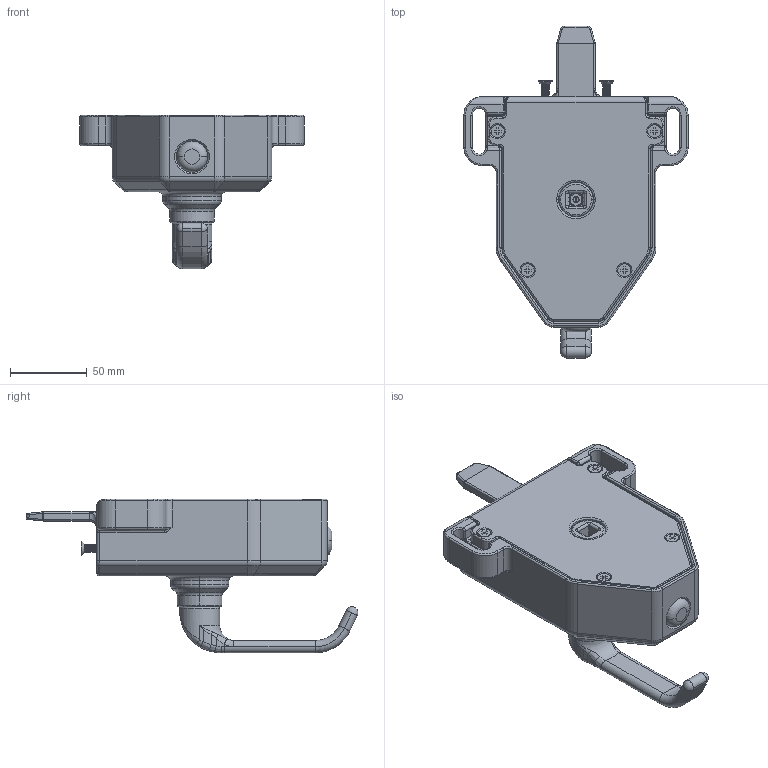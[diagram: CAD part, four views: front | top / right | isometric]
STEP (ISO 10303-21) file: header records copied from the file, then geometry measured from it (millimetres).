
FILE_DESCRIPTION (( 'STEP AP203' ), '1' );
FILE_NAME ('UGB-M Rotary Front Handle (STEP Format).STEP', '2017-08-25T12:48:46', ( '' ), ( '' ), 'SwSTEP 2.0', 'SolidWorks 2015', '' );
FILE_SCHEMA (( 'CONFIG_CONTROL_DESIGN' ));
Products named in the file (1): UGB-M Rotary Front Handle (STEP Format)
Bounding box: 146 x 216 x 100 mm (x, y, z)
Volume: 329307.7 mm3; surface area: 151299.4 mm2
Topology: 15 solids, 15 shells, 1722 faces, 4064 edges, 2324 vertices
Faces by surface type: cylinder 713, plane 356, torus 321, bspline 169, cone 119, sphere 44
Entity records: 71657 total; most frequent: CARTESIAN_POINT 33647, DIRECTION 8205, ORIENTED_EDGE 7972, EDGE_CURVE 3986, AXIS2_PLACEMENT_3D 3311, VERTEX_POINT 2320, EDGE_LOOP 1782, CIRCLE 1757
